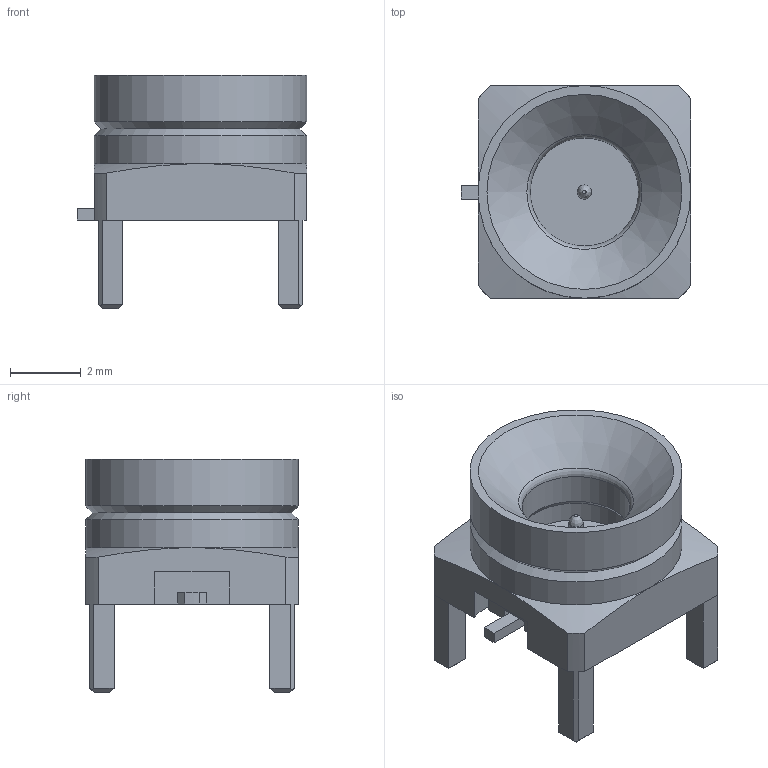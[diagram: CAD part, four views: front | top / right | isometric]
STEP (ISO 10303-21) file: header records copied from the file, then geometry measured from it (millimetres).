
FILE_DESCRIPTION(/* description */ (''),/* implementation_level */ '2;1');
FILE_NAME(/* name */ '734153310wbm000_03_214.stp',/* time_stamp */ '2023-11-15T18:08:05+06:00',/* author */ (''),/* organization */ (''),/* preprocessor_version */ 'ST-DEVELOPER v16.7',/* originating_system */ 'SIEMENS PLM Software NX 1919',/* authorisation */ '');
FILE_SCHEMA (('AUTOMOTIVE_DESIGN { 1 0 10303 214 3 1 1 1 }'));
Length unit declared in the file: millimetre
Products named in the file (1): 734153310wbm000_03
Bounding box: 6.47 x 6 x 6.6 mm (x, y, z)
Volume: 100.1 mm3; surface area: 213.6 mm2
Topology: 1 solids, 1 shells, 90 faces, 236 edges, 150 vertices
Faces by surface type: plane 63, cylinder 16, cone 9, bspline 1, torus 1
Full cylindrical faces by diameter (mm): 0.4 x1, 3.05 x1, 3.18 x1, 6 x2
Entity records: 2738 total; most frequent: CARTESIAN_POINT 553, DIRECTION 446, ORIENTED_EDGE 440, EDGE_CURVE 220, AXIS2_PLACEMENT_3D 151, VERTEX_POINT 147, LINE 144, VECTOR 144
